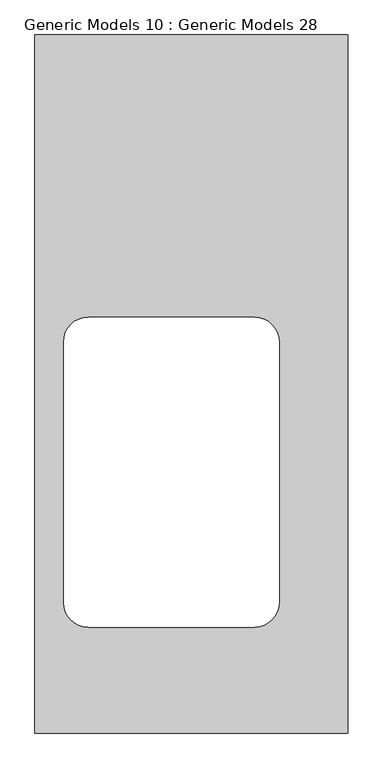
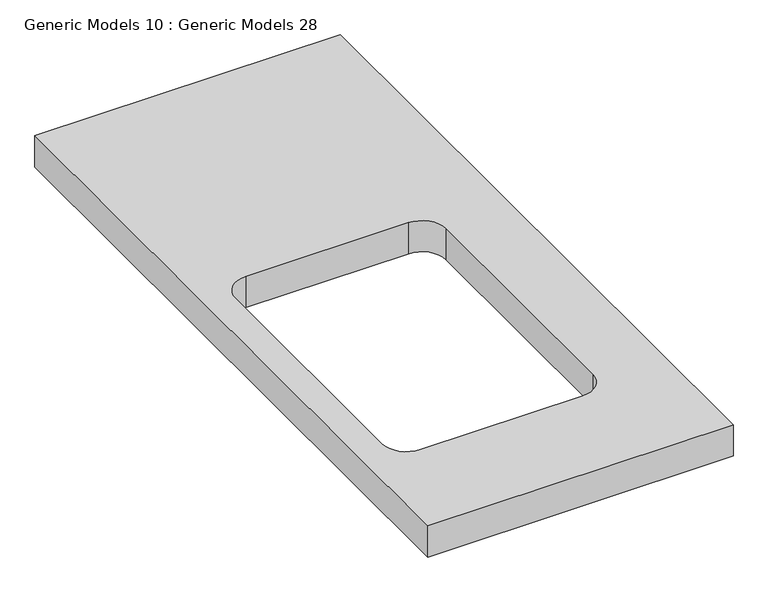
"""IFC4 building model written with IfcOpenShell, lengths in millimetres: proxy geometry, Generic Models 10 : Generic Models 28."""

from ifc_helpers import new_model, si_unit, point, frame, frame_2d, origin, place, context, project, spatial, polyline, circle_curve, trimmed, segment, composite_curve, outline, extrude, source, transform, mapped, element, save


def generic_models_10_generic_models_28_7c6bd00c(model_context):
    return source(origin(), model_context, "Body", "SweptSolid", [
        extrude(outline(polyline([(-24027.2739616, -3014.5871375), (-23377.2739616, -3014.5871375), (-23377.2739616, -4464.5871375), (-24027.2739616, -4464.5871375), (-24027.2739616, -3014.5871375)]), holes=[composite_curve([segment(trimmed(circle_curve(frame_2d((-23570.9140717, -4193.518049)), 50.8), [point((-23570.9140717, -4244.318049))], [point((-23520.1140717, -4193.518049))], True, "CARTESIAN"), True, "CONTINUOUS"), segment(polyline([(-23520.1140717, -4193.518049), (-23520.1140717, -3652.018049)]), True, "CONTINUOUS"), segment(trimmed(circle_curve(frame_2d((-23570.9140717, -3652.018049)), 50.8), [point((-23520.1140717, -3652.018049))], [point((-23570.9140717, -3601.218049))], True, "CARTESIAN"), True, "CONTINUOUS"), segment(polyline([(-23570.9140717, -3601.218049), (-23916.9140717, -3601.218049)]), True, "CONTINUOUS"), segment(trimmed(circle_curve(frame_2d((-23916.9140717, -3652.018049)), 50.8), [point((-23916.9140717, -3601.218049))], [point((-23967.7140717, -3652.018049))], True, "CARTESIAN"), True, "CONTINUOUS"), segment(polyline([(-23967.7140717, -3652.018049), (-23967.7140717, -4193.518049)]), True, "CONTINUOUS"), segment(trimmed(circle_curve(frame_2d((-23916.9140717, -4193.518049)), 50.8), [point((-23967.7140717, -4193.518049))], [point((-23916.9140717, -4244.318049))], True, "CARTESIAN"), True, "CONTINUOUS"), segment(polyline([(-23916.9140717, -4244.318049), (-23570.9140717, -4244.318049)]), True, "CONTINUOUS")], self_intersect=False)]), frame((0.0, 0.0, 830.0), z_axis=(0.0, 0.0, 1.0), x_axis=(1.0, 0.0, 0.0)), (0.0, 0.0, 1.0), 70.0),
    ])


if __name__ == "__main__":
    model = new_model("IFC4")
    model_context = context("Model", 3, world=origin())
    ifc_project = project(units=[si_unit("LENGTHUNIT", "METRE", prefix="MILLI")], contexts=[model_context])
    site = spatial("IfcSite", under=ifc_project)
    building = spatial("IfcBuilding", under=site)
    placement = place(None, origin())
    generic_models_10_generic_models_28_shape = generic_models_10_generic_models_28_7c6bd00c(model_context)
    element("IfcBuildingElementProxy", 1, Name="Generic Models 10 : Generic Models 28", ObjectType="Generic Models 10 : Generic Models 28", at=placement, inside=building, context=model_context, shape_type="MappedRepresentation", body=[
        mapped(generic_models_10_generic_models_28_shape, transform((0.0, 0.0, 0.0), x_axis=(1.0, 0.0, 0.0), y_axis=(0.0, 1.0, 0.0), z_axis=(0.0, 0.0, 1.0))),
    ])
    save(model, "model.ifc")
